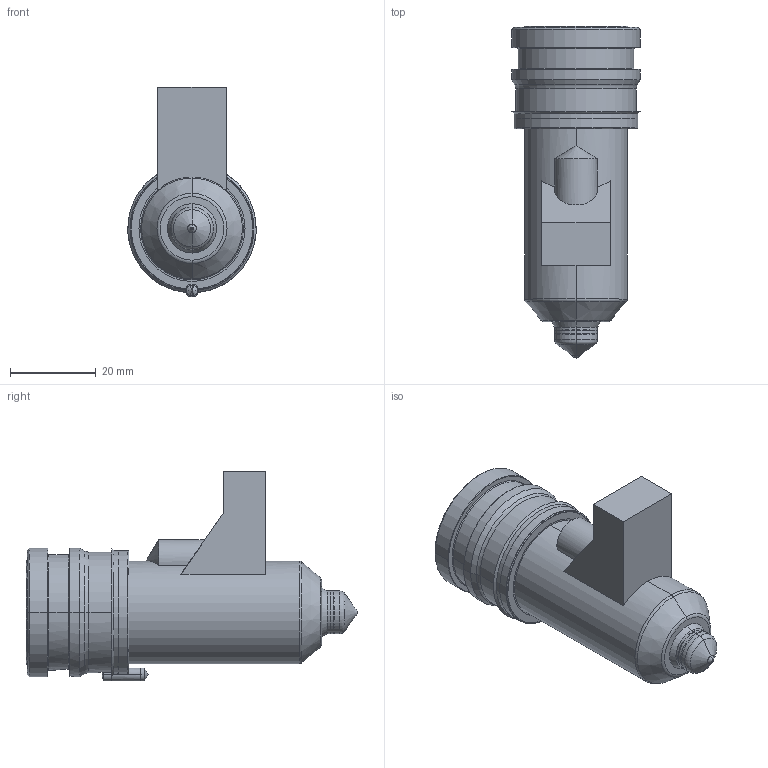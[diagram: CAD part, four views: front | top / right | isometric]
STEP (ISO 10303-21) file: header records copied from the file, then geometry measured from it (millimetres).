
FILE_DESCRIPTION((''),'2;1');
FILE_NAME('MPN-10-29-TX10-056-M','2026-02-05T12:50:34',('UPTIO'),('Thermoplay S.p.A.'),'CREO PARAMETRIC BY PTC INC, 2023494','CREO PARAMETRIC BY PTC INC, 2023494','');
FILE_SCHEMA(('CONFIG_CONTROL_DESIGN','SHAPE_APPEARANCE_LAYERS_GROUPS'));
Length unit declared in the file: millimetre
Products named in the file (1): MPN-10-29-TX10-056-M
Bounding box: 30 x 77.5 x 49 mm (x, y, z)
Volume: 25215.6 mm3; surface area: 25778.7 mm2
Topology: 3 solids, 5 shells, 541 faces, 1383 edges, 844 vertices
Faces by surface type: cylinder 177, plane 146, bspline 73, torus 67, cone 64, sphere 10, extrusion 4
Entity records: 29266 total; most frequent: CARTESIAN_POINT 13500, ORIENTED_EDGE 2748, DIRECTION 2568, EDGE_CURVE 1374, AXIS2_PLACEMENT_3D 1017, VERTEX_POINT 844, EDGE_LOOP 570, CIRCLE 552
